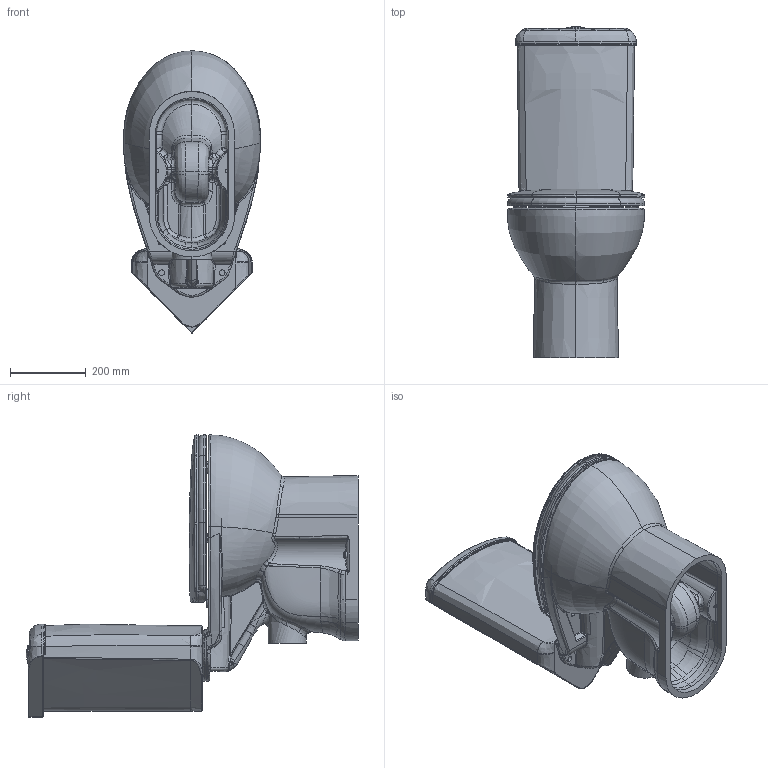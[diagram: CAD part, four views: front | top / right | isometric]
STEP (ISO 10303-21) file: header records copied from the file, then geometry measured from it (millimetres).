
FILE_DESCRIPTION (( 'STEP AP203' ), '1' );
FILE_NAME ('SD310-00CB00E-0000.STEP', '2022-04-26T06:49:39', ( '' ), ( '' ), 'SwSTEP 2.0', 'SolidWorks 2021', '' );
FILE_SCHEMA (( 'CONFIG_CONTROL_DESIGN' ));
Length unit declared in the file: millimetre
Products named in the file (1): SD310-00CB00E-0000
Bounding box: 361.58 x 876.18 x 744.77 mm (x, y, z)
Volume: 37140728.4 mm3; surface area: 2552741.8 mm2
Topology: 30 solids, 32 shells, 1895 faces, 4540 edges, 2747 vertices
Faces by surface type: bspline 795, cylinder 458, plane 371, torus 140, cone 91, sphere 40
Entity records: 517628 total; most frequent: CARTESIAN_POINT 480248, ORIENTED_EDGE 9002, DIRECTION 6083, EDGE_CURVE 4501, VERTEX_POINT 2745, AXIS2_PLACEMENT_3D 2520, EDGE_LOOP 2012, FACE_OUTER_BOUND 1895
